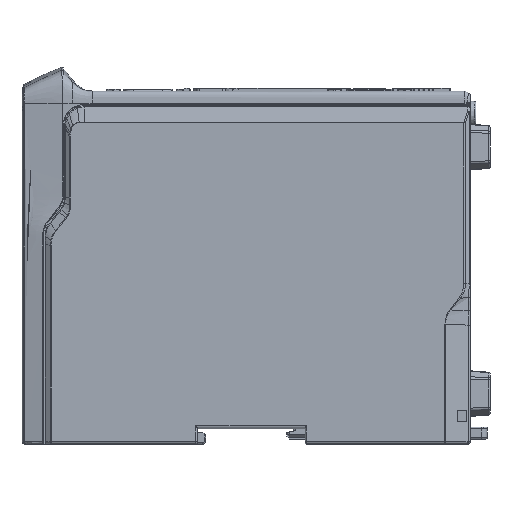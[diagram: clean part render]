
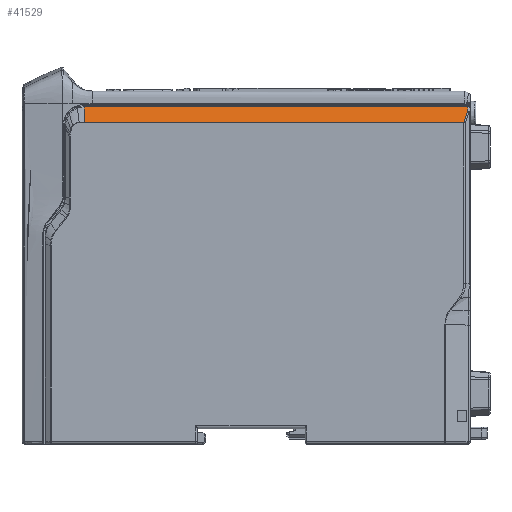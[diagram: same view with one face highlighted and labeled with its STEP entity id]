
A CAD part, left-side view. The second image highlights one B-rep face of the part: STEP entity #41529.
In plain terms, the highlighted planar face has unit normal (-0.97, 0, 0.242).
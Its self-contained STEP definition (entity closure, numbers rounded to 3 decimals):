
#5756 = VERTEX_POINT ( 'NONE', #61676 ) ;
#5934 = DIRECTION ( 'NONE',  ( 0.243, 0., 0.97 ) ) ;
#6653 = ORIENTED_EDGE ( 'NONE', *, *, #134758, .T. ) ;
#16854 = ORIENTED_EDGE ( 'NONE', *, *, #69760, .F. ) ;
#17005 = CARTESIAN_POINT ( 'NONE',  ( -29.985, -221.833, 108.76 ) ) ;
#18470 = EDGE_CURVE ( 'NONE', #83064, #112256, #152962, .T. ) ;
#30607 = CARTESIAN_POINT ( 'NONE',  ( -29.29, 137.8, 111.54 ) ) ;
#32573 = DIRECTION ( 'NONE',  ( 0., 1., 0. ) ) ;
#32606 = CARTESIAN_POINT ( 'NONE',  ( -28.595, 137.8, 114.321 ) ) ;
#41529 = ADVANCED_FACE ( 'NONE', ( #115347 ), #164050, .T. ) ;
#47775 = CARTESIAN_POINT ( 'NONE',  ( -29.985, 2.353, 108.76 ) ) ;
#54595 = CARTESIAN_POINT ( 'NONE',  ( -28.5, 1., 114.7 ) ) ;
#56120 = LINE ( 'NONE', #17005, #134116 ) ;
#60835 = CARTESIAN_POINT ( 'NONE',  ( -28.97, 1., 112.819 ) ) ;
#61676 = CARTESIAN_POINT ( 'NONE',  ( -29.985, 137.8, 108.76 ) ) ;
#62037 = DIRECTION ( 'NONE',  ( 0.231, -0.308, 0.923 ) ) ;
#63667 = CARTESIAN_POINT ( 'NONE',  ( -28.5, 137.8, 114.7 ) ) ;
#65599 = VECTOR ( 'NONE', #85944, 1000. ) ;
#69760 = EDGE_CURVE ( 'NONE', #159746, #5756, #56120, .T. ) ;
#75784 = CARTESIAN_POINT ( 'NONE',  ( -29.985, 2.353, 108.76 ) ) ;
#80262 = EDGE_CURVE ( 'NONE', #5756, #112256, #177098, .T. ) ;
#83064 = VERTEX_POINT ( 'NONE', #106966 ) ;
#85944 = DIRECTION ( 'NONE',  ( 0.243, 0., 0.97 ) ) ;
#90383 = ORIENTED_EDGE ( 'NONE', *, *, #18470, .T. ) ;
#96682 = VECTOR ( 'NONE', #62037, 1000. ) ;
#106966 = CARTESIAN_POINT ( 'NONE',  ( -28.595, 1., 114.321 ) ) ;
#112256 = VERTEX_POINT ( 'NONE', #135411 ) ;
#113376 = EDGE_CURVE ( 'NONE', #122024, #83064, #114272, .T. ) ;
#113986 = ORIENTED_EDGE ( 'NONE', *, *, #80262, .F. ) ;
#114272 = LINE ( 'NONE', #54595, #181294 ) ;
#114895 = VECTOR ( 'NONE', #162760, 1000. ) ;
#115347 = FACE_OUTER_BOUND ( 'NONE', #150340, .T. ) ;
#122024 = VERTEX_POINT ( 'NONE', #60835 ) ;
#123142 = AXIS2_PLACEMENT_3D ( 'NONE', #63667, #162822, #5934 ) ;
#134116 = VECTOR ( 'NONE', #32573, 1000. ) ;
#134758 = EDGE_CURVE ( 'NONE', #159746, #122024, #143621, .T. ) ;
#135411 = CARTESIAN_POINT ( 'NONE',  ( -28.595, 137.8, 114.321 ) ) ;
#143621 = LINE ( 'NONE', #47775, #96682 ) ;
#150340 = EDGE_LOOP ( 'NONE', ( #16854, #6653, #159314, #90383, #113986 ) ) ;
#152962 = LINE ( 'NONE', #32606, #114895 ) ;
#154297 = DIRECTION ( 'NONE',  ( 0.243, 0., 0.97 ) ) ;
#159314 = ORIENTED_EDGE ( 'NONE', *, *, #113376, .T. ) ;
#159746 = VERTEX_POINT ( 'NONE', #75784 ) ;
#162760 = DIRECTION ( 'NONE',  ( 0., 1., 0. ) ) ;
#162822 = DIRECTION ( 'NONE',  ( -0.97, 0., 0.243 ) ) ;
#164050 = PLANE ( 'NONE',  #123142 ) ;
#177098 = LINE ( 'NONE', #30607, #65599 ) ;
#181294 = VECTOR ( 'NONE', #154297, 1000. ) ;
